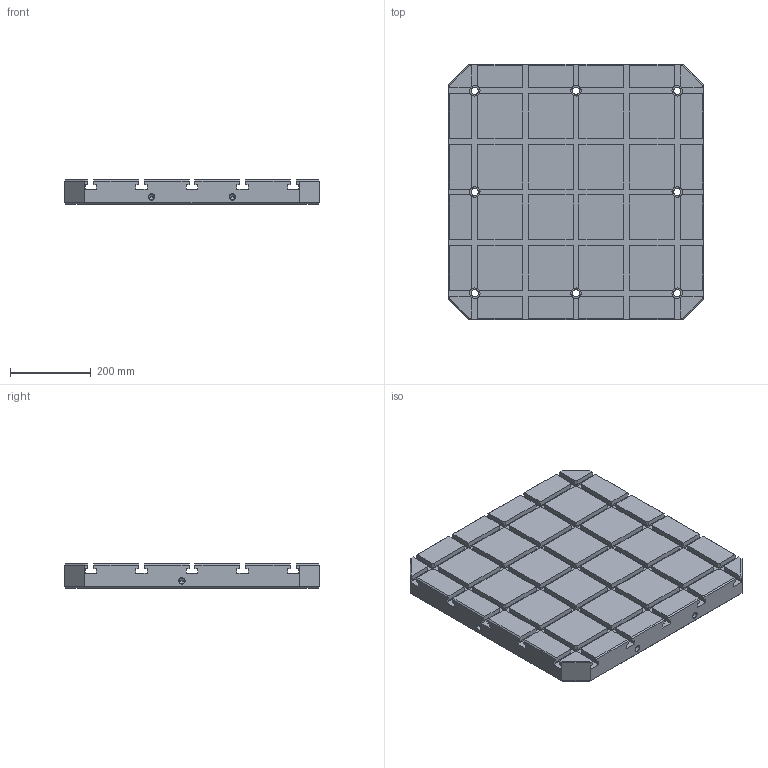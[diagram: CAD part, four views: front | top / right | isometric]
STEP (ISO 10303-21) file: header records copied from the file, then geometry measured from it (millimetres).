
FILE_DESCRIPTION((''),'2;1');
FILE_NAME('FG_WH_BASPL_SQTSLNP003','2026-05-17T13:49:17',('Admin'),(''),'CREO PARAMETRIC BY PTC INC, 2025010','CREO PARAMETRIC BY PTC INC, 2025010','');
FILE_SCHEMA(('CONFIG_CONTROL_DESIGN'));
Length unit declared in the file: millimetre
Products named in the file (1): FG_WH_BASPL_SQTSLNP003
Bounding box: 630 x 630 x 60 mm (x, y, z)
Volume: 20631784.1 mm3; surface area: 1325059.1 mm2
Topology: 1 solids, 4 shells, 451 faces, 1202 edges, 793 vertices
Faces by surface type: plane 369, cylinder 76, cone 6
Entity records: 13894 total; most frequent: CARTESIAN_POINT 2441, ORIENTED_EDGE 2380, DIRECTION 2258, EDGE_CURVE 1196, VECTOR 1038, LINE 1038, VERTEX_POINT 793, AXIS2_PLACEMENT_3D 610
